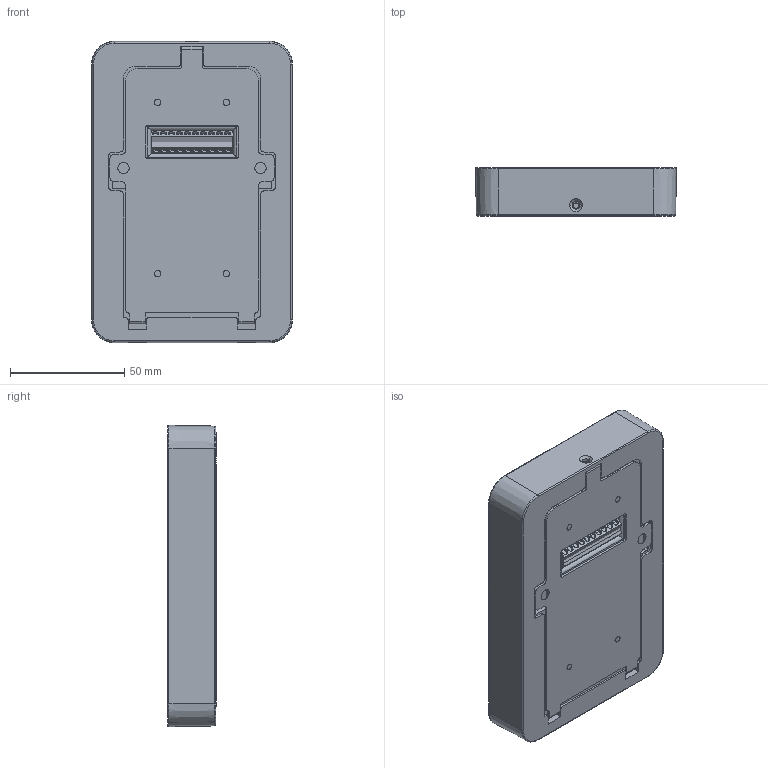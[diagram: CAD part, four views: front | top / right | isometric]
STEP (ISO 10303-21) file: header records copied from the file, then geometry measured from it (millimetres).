
FILE_DESCRIPTION((''),'2;1');
FILE_NAME('RTMU86_ASM','2021-06-04T',('bao'),(''),'PRO/ENGINEER BY PARAMETRIC TECHNOLOGY CORPORATION, 2010280','PRO/ENGINEER BY PARAMETRIC TECHNOLOGY CORPORATION, 2010280','');
FILE_SCHEMA(('CONFIG_CONTROL_DESIGN'));
Length unit declared in the file: millimetre
Products named in the file (17): PRT0001; PRT0002; PRT0003; PRT0004; PRT0005; PCBA_ASM_26_ASM_1_ASM_ASM; PRT0006; PRT0007; PRT0008; BANJIN_74_ASM_1_ASM_ASM; PRT0009; DUANZI-GREEN-3R5_1_1_9_1; ASM0001_ASM; MU86_PRO_ASM_182_ASM_1_ASM_ASM; MU86_PRO_ASM_ASM_1_ASM_ASM; MU86_PRO_ASM_1__ASM_ASM; RTMU86_ASM
Assembly tree (16 placements, depth 6):
  RTMU86_ASM
    MU86_PRO_ASM_1__ASM_ASM
      MU86_PRO_ASM_ASM_1_ASM_ASM
        MU86_PRO_ASM_182_ASM_1_ASM_ASM
          PRT0001
          PRT0002
          PRT0003
          PCBA_ASM_26_ASM_1_ASM_ASM
            PRT0004
            PRT0005
          BANJIN_74_ASM_1_ASM_ASM
            PRT0006
            PRT0007
            PRT0008
          PRT0009
          ASM0001_ASM
            DUANZI-GREEN-3R5_1_1_9_1
Bounding box: 87.98 x 21.2 x 131.98 mm (x, y, z)
Volume: 102163.5 mm3; surface area: 109632.1 mm2
Topology: 10 solids, 10 shells, 1688 faces, 4410 edges, 2879 vertices
Faces by surface type: plane 1308, cylinder 312, cone 38, torus 18, bspline 12
Entity records: 52389 total; most frequent: CARTESIAN_POINT 9951, ORIENTED_EDGE 8820, DIRECTION 8460, EDGE_CURVE 4410, VECTOR 3632, LINE 3632, VERTEX_POINT 2879, AXIS2_PLACEMENT_3D 2414
